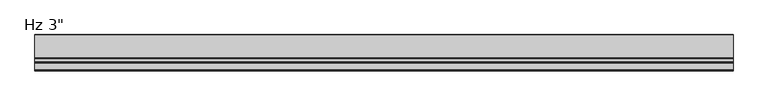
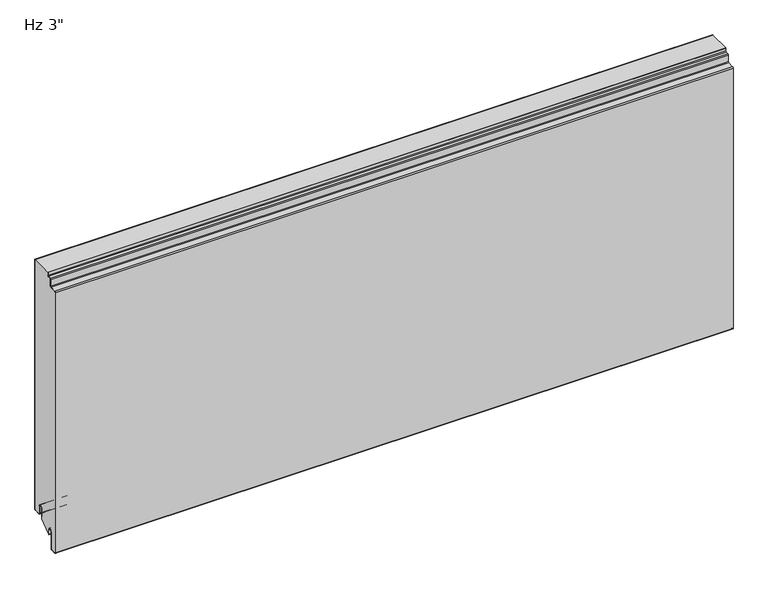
"""IFC4 building model written with IfcOpenShell, lengths in millimetres: plate geometry."""

from ifc_helpers import new_model, si_unit, point, frame, frame_2d, origin, place, context, project, spatial, polyline, circle_curve, trimmed, segment, composite_curve, outline, extrude, source, transform, mapped, element, save


def plate_90fd1389(model_context):
    return source(origin(), model_context, "Body", "SweptSolid", [
        extrude(outline(composite_curve([segment(trimmed(circle_curve(frame_2d((-21.43125, 19.05)), 4.96875), [point((-16.4625, 19.05))], [point((-26.4, 19.05))], True, "CARTESIAN"), True, "CONTINUOUS"), segment(polyline([(-26.4, 19.05), (-26.4, -3.1323422), (-49.2157227, -23.01875), (-50.8, -23.01875), (-50.8, -13.5080174), (-51.59375, -13.5080174), (-51.3875, -11.9205174)]), True, "CONTINUOUS"), segment(trimmed(circle_curve(frame_2d((-56.35625, -11.9205174)), 4.96875), [point((-51.3875, -11.9205174))], [point((-61.325, -11.9205174))], True, "CARTESIAN"), True, "CONTINUOUS"), segment(polyline([(-61.325, -11.9205174), (-61.325, -50.1038221)]), True, "CONTINUOUS"), segment(trimmed(circle_curve(frame_2d((-62.70625, -50.1038221)), 1.38125), [point((-61.325, -50.1038221))], [point((-62.633961, -51.4831791))], False, "CARTESIAN"), True, "CONTINUOUS"), segment(polyline([(-62.633961, -51.4831791), (-73.746461, -52.0655606)]), True, "CONTINUOUS"), segment(trimmed(circle_curve(frame_2d((-73.81875, -50.6862035)), 1.38125), [point((-73.746461, -52.0655606))], [point((-75.2, -50.6862035))], False, "CARTESIAN"), True, "CONTINUOUS"), segment(polyline([(-75.2, -50.6862035), (-75.2, 541.4447607)]), True, "CONTINUOUS"), segment(trimmed(circle_curve(frame_2d((-73.81875, 541.4447607)), 1.38125), [point((-75.2, 541.4447607))], [point((-73.891039, 542.8241177))], False, "CARTESIAN"), True, "CONTINUOUS"), segment(polyline([(-73.891039, 542.8241177), (-60.1895807, 543.5421807)]), True, "CONTINUOUS"), segment(trimmed(circle_curve(frame_2d((-60.325, 546.1261347)), 2.5875), [point((-60.1895807, 543.5421807))], [point((-57.7375, 546.1261347))], True, "CARTESIAN"), True, "CONTINUOUS"), segment(polyline([(-57.7375, 546.1261347), (-57.7375, 560.2824411)]), True, "CONTINUOUS"), segment(trimmed(circle_curve(frame_2d((-56.35625, 560.2824411)), 1.38125), [point((-57.7375, 560.2824411))], [point((-56.428539, 561.6617981))], False, "CARTESIAN"), True, "CONTINUOUS"), segment(polyline([(-56.428539, 561.6617981), (-50.6645807, 561.9638744)]), True, "CONTINUOUS"), segment(trimmed(circle_curve(frame_2d((-50.8, 564.5478283)), 2.5875), [point((-50.6645807, 561.9638744))], [point((-48.2125, 564.5478283))], True, "CARTESIAN"), True, "CONTINUOUS"), segment(polyline([(-48.2125, 564.5478283), (-48.2125, 571.2), (-1.0, 571.2), (-1.0, 3.175)]), True, "CONTINUOUS"), segment(trimmed(circle_curve(frame_2d((-2.38125, 3.175)), 1.38125), [point((-1.0, 3.175))], [point((-2.38125, 1.79375))], False, "CARTESIAN"), True, "CONTINUOUS"), segment(polyline([(-2.38125, 1.79375), (-15.08125, 1.79375)]), True, "CONTINUOUS"), segment(trimmed(circle_curve(frame_2d((-15.08125, 3.175)), 1.38125), [point((-15.08125, 1.79375))], [point((-16.4625, 3.175))], False, "CARTESIAN"), True, "CONTINUOUS"), segment(polyline([(-16.4625, 3.175), (-16.4625, 19.05)]), True, "CONTINUOUS")], self_intersect=False)), frame((-730.0, 0.0, 0.0), z_axis=(1.0, 0.0, 0.0), x_axis=(0.0, 1.0, 0.0)), (0.0, 0.0, 1.0), 1460.0),
        extrude(outline(composite_curve([segment(polyline([(-25.4, 0.79375), (-26.4, 0.79375), (-26.4, 19.05)]), True, "CONTINUOUS"), segment(trimmed(circle_curve(frame_2d((-21.43125, 19.05)), 4.96875), [point((-26.4, 19.05))], [point((-16.4625, 19.05))], False, "CARTESIAN"), True, "CONTINUOUS"), segment(polyline([(-16.4625, 19.05), (-16.4625, 3.175)]), True, "CONTINUOUS"), segment(trimmed(circle_curve(frame_2d((-15.08125, 3.175)), 1.38125), [point((-16.4625, 3.175))], [point((-15.08125, 1.79375))], True, "CARTESIAN"), True, "CONTINUOUS"), segment(polyline([(-15.08125, 1.79375), (-2.38125, 1.79375)]), True, "CONTINUOUS"), segment(trimmed(circle_curve(frame_2d((-2.38125, 3.175)), 1.38125), [point((-2.38125, 1.79375))], [point((-1.0, 3.175))], True, "CARTESIAN"), True, "CONTINUOUS"), segment(polyline([(-1.0, 3.175), (-1.0, 571.2), (0.0, 571.2), (0.0, 3.175)]), True, "CONTINUOUS"), segment(trimmed(circle_curve(frame_2d((-2.38125, 3.175)), 2.38125), [point((0.0, 3.175))], [point((-2.38125, 0.79375))], False, "CARTESIAN"), True, "CONTINUOUS"), segment(polyline([(-2.38125, 0.79375), (-15.08125, 0.79375)]), True, "CONTINUOUS"), segment(trimmed(circle_curve(frame_2d((-15.08125, 3.175)), 2.38125), [point((-15.08125, 0.79375))], [point((-17.4625, 3.175))], False, "CARTESIAN"), True, "CONTINUOUS"), segment(polyline([(-17.4625, 3.175), (-17.4625, 19.05)]), True, "CONTINUOUS"), segment(trimmed(circle_curve(frame_2d((-21.43125, 19.05)), 3.96875), [point((-17.4625, 19.05))], [point((-25.4, 19.05))], True, "CARTESIAN"), True, "CONTINUOUS"), segment(polyline([(-25.4, 19.05), (-25.4, 0.79375)]), True, "CONTINUOUS")], self_intersect=False)), frame((-730.0, 0.0, 0.0), z_axis=(1.0, 0.0, 0.0), x_axis=(0.0, 1.0, 0.0)), (0.0, 0.0, 1.0), 1460.0),
        extrude(outline(composite_curve([segment(trimmed(circle_curve(frame_2d((-51.59375, -23.2314549)), 0.79375), [point((-50.8, -23.2314549))], [point((-52.3875, -23.2314549))], False, "CARTESIAN"), True, "CONTINUOUS"), segment(polyline([(-52.3875, -23.2314549), (-52.3875, -11.9205174)]), True, "CONTINUOUS"), segment(trimmed(circle_curve(frame_2d((-56.35625, -11.9205174)), 3.96875), [point((-52.3875, -11.9205174))], [point((-60.325, -11.9205174))], True, "CARTESIAN"), True, "CONTINUOUS"), segment(polyline([(-60.325, -11.9205174), (-60.325, -50.1038221)]), True, "CONTINUOUS"), segment(trimmed(circle_curve(frame_2d((-62.70625, -50.1038221)), 2.38125), [point((-60.325, -50.1038221))], [point((-62.581625, -52.4818086))], False, "CARTESIAN"), True, "CONTINUOUS"), segment(polyline([(-62.581625, -52.4818086), (-73.694125, -53.0641901)]), True, "CONTINUOUS"), segment(trimmed(circle_curve(frame_2d((-73.81875, -50.6862035)), 2.38125), [point((-73.694125, -53.0641901))], [point((-76.2, -50.6862035))], False, "CARTESIAN"), True, "CONTINUOUS"), segment(polyline([(-76.2, -50.6862035), (-76.2, 541.4447607)]), True, "CONTINUOUS"), segment(trimmed(circle_curve(frame_2d((-73.81875, 541.4447607)), 2.38125), [point((-76.2, 541.4447607))], [point((-73.943375, 543.8227473))], False, "CARTESIAN"), True, "CONTINUOUS"), segment(polyline([(-73.943375, 543.8227473), (-60.2419167, 544.5408103)]), True, "CONTINUOUS"), segment(trimmed(circle_curve(frame_2d((-60.325, 546.1261347)), 1.5875), [point((-60.2419167, 544.5408103))], [point((-58.7375, 546.1261347))], True, "CARTESIAN"), True, "CONTINUOUS"), segment(polyline([(-58.7375, 546.1261347), (-58.7375, 560.2824411)]), True, "CONTINUOUS"), segment(trimmed(circle_curve(frame_2d((-56.35625, 560.2824411)), 2.38125), [point((-58.7375, 560.2824411))], [point((-56.480875, 562.6604276))], False, "CARTESIAN"), True, "CONTINUOUS"), segment(polyline([(-56.480875, 562.6604276), (-50.7169167, 562.9625039)]), True, "CONTINUOUS"), segment(trimmed(circle_curve(frame_2d((-50.8, 564.5478283)), 1.5875), [point((-50.7169167, 562.9625039))], [point((-49.2125, 564.5478283))], True, "CARTESIAN"), True, "CONTINUOUS"), segment(polyline([(-49.2125, 564.5478283), (-49.2125, 571.2), (-48.2125, 571.2), (-48.2125, 564.5478283)]), True, "CONTINUOUS"), segment(trimmed(circle_curve(frame_2d((-50.8, 564.5478283)), 2.5875), [point((-48.2125, 564.5478283))], [point((-50.6645807, 561.9638744))], False, "CARTESIAN"), True, "CONTINUOUS"), segment(polyline([(-50.6645807, 561.9638744), (-56.428539, 561.6617981)]), True, "CONTINUOUS"), segment(trimmed(circle_curve(frame_2d((-56.35625, 560.2824411)), 1.38125), [point((-56.428539, 561.6617981))], [point((-57.7375, 560.2824411))], True, "CARTESIAN"), True, "CONTINUOUS"), segment(polyline([(-57.7375, 560.2824411), (-57.7375, 546.1261347)]), True, "CONTINUOUS"), segment(trimmed(circle_curve(frame_2d((-60.325, 546.1261347)), 2.5875), [point((-57.7375, 546.1261347))], [point((-60.1895807, 543.5421807))], False, "CARTESIAN"), True, "CONTINUOUS"), segment(polyline([(-60.1895807, 543.5421807), (-73.891039, 542.8241177)]), True, "CONTINUOUS"), segment(trimmed(circle_curve(frame_2d((-73.81875, 541.4447607)), 1.38125), [point((-73.891039, 542.8241177))], [point((-75.2, 541.4447607))], True, "CARTESIAN"), True, "CONTINUOUS"), segment(polyline([(-75.2, 541.4447607), (-75.2, -50.6862035)]), True, "CONTINUOUS"), segment(trimmed(circle_curve(frame_2d((-73.81875, -50.6862035)), 1.38125), [point((-75.2, -50.6862035))], [point((-73.746461, -52.0655606))], True, "CARTESIAN"), True, "CONTINUOUS"), segment(polyline([(-73.746461, -52.0655606), (-62.633961, -51.4831791)]), True, "CONTINUOUS"), segment(trimmed(circle_curve(frame_2d((-62.70625, -50.1038221)), 1.38125), [point((-62.633961, -51.4831791))], [point((-61.325, -50.1038221))], True, "CARTESIAN"), True, "CONTINUOUS"), segment(polyline([(-61.325, -50.1038221), (-61.325, -11.9205174)]), True, "CONTINUOUS"), segment(trimmed(circle_curve(frame_2d((-56.35625, -11.9205174)), 4.96875), [point((-61.325, -11.9205174))], [point((-51.3875, -11.9205174))], False, "CARTESIAN"), True, "CONTINUOUS"), segment(polyline([(-51.3875, -11.9205174), (-51.59375, -13.5080174), (-50.8, -13.5080174), (-50.8, -23.2314549)]), True, "CONTINUOUS")], self_intersect=False)), frame((-730.0, 0.0, 0.0), z_axis=(1.0, 0.0, 0.0), x_axis=(0.0, 1.0, 0.0)), (0.0, 0.0, 1.0), 1460.0),
    ])


if __name__ == "__main__":
    model = new_model("IFC4")
    model_context = context("Model", 3, world=origin())
    ifc_project = project(units=[si_unit("LENGTHUNIT", "METRE", prefix="MILLI")], contexts=[model_context])
    site = spatial("IfcSite", under=ifc_project)
    building = spatial("IfcBuilding", under=site)
    placement = place(None, origin())
    plate_shape = plate_90fd1389(model_context)
    element("IfcPlate", 1, ObjectType="KIP-24-DWHR-R19-CP-Hz-F : Hz 3\"", at=placement, inside=building, context=model_context, shape_type="MappedRepresentation", body=[
        mapped(plate_shape, transform((0.0, 0.0, 0.0), x_axis=(1.0, 0.0, 0.0), y_axis=(0.0, 1.0, 0.0), z_axis=(0.0, 0.0, 1.0))),
    ])
    save(model, "model.ifc")
